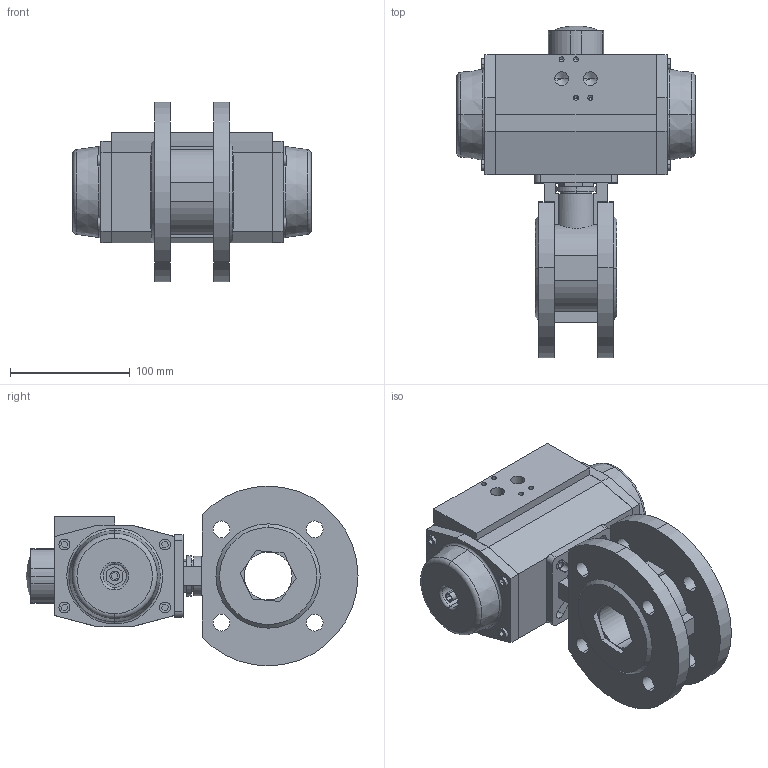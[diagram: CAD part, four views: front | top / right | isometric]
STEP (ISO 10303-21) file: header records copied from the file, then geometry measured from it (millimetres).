
FILE_DESCRIPTION (( 'STEP AP214' ), '1' );
FILE_NAME ('S15D DN40 + AP3.STEP', '2012-04-24T08:17:48', ( 'Jan' ), ( '' ), 'SwSTEP 2.0', 'SolidWorks 2011', '' );
FILE_SCHEMA (( 'AUTOMOTIVE_DESIGN' ));
Length unit declared in the file: millimetre
Products named in the file (3): S15D DN40 + AP3; AP3_Default<As Machined>; S15D KK DN40 PN16
Assembly tree (2 placements, depth 2):
  S15D DN40 + AP3
    AP3_Default<As Machined>
    S15D KK DN40 PN16
Bounding box: 199 x 276.99 x 150 mm (x, y, z)
Volume: 2073854.5 mm3; surface area: 208854.8 mm2
Topology: 9 solids, 9 shells, 414 faces, 1045 edges, 663 vertices
Faces by surface type: plane 230, cylinder 126, cone 44, torus 12, sphere 2
Entity records: 13867 total; most frequent: CARTESIAN_POINT 2170, DIRECTION 2141, ORIENTED_EDGE 2018, EDGE_CURVE 1009, AXIS2_PLACEMENT_3D 716, LINE 709, VECTOR 709, VERTEX_POINT 663
